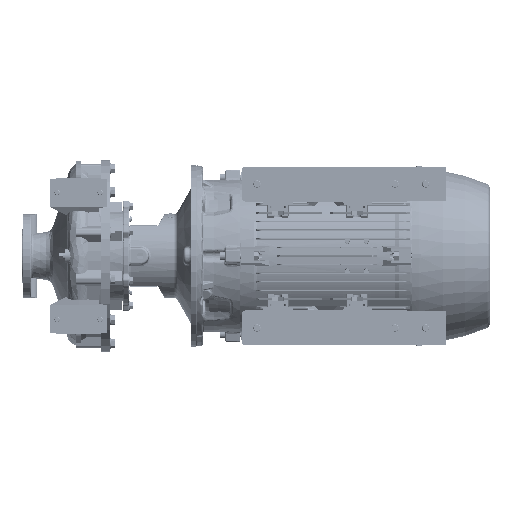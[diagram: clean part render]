
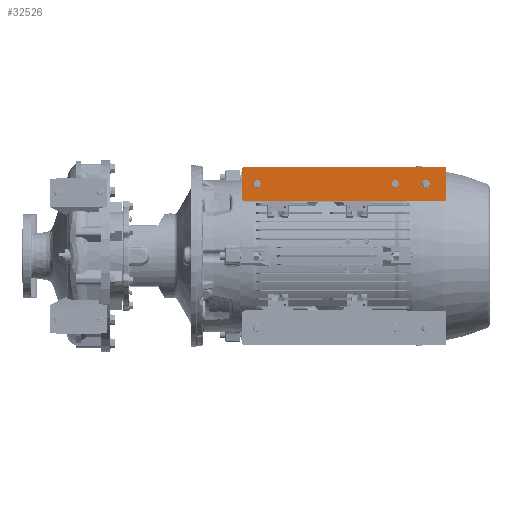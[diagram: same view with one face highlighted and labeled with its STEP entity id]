
A CAD part, front view. The second image highlights one B-rep face of the part: STEP entity #32526.
In plain terms, the highlighted planar face has unit normal (0, -1, 0).
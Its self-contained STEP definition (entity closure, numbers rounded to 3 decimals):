
#7 = VERTEX_POINT ( 'NONE', #202295 ) ;
#3494 = DIRECTION ( 'NONE',  ( 0., 0., -1. ) ) ;
#4790 = VERTEX_POINT ( 'NONE', #123176 ) ;
#8928 = CARTESIAN_POINT ( 'NONE',  ( 37.5, 0., -345.5 ) ) ;
#9442 = CIRCLE ( 'NONE', #90820, 9. ) ;
#11420 = CARTESIAN_POINT ( 'NONE',  ( 0., 0., -3. ) ) ;
#12205 = CIRCLE ( 'NONE', #294883, 8. ) ;
#12780 = EDGE_CURVE ( 'NONE', #149916, #209940, #103593, .T. ) ;
#13711 = AXIS2_PLACEMENT_3D ( 'NONE', #248747, #113656, #182715 ) ;
#15314 = DIRECTION ( 'NONE',  ( 0., 0., -1. ) ) ;
#16741 = DIRECTION ( 'NONE',  ( 0., 0., -1. ) ) ;
#19139 = EDGE_CURVE ( 'NONE', #53558, #128656, #172442, .T. ) ;
#20079 = CARTESIAN_POINT ( 'NONE',  ( 37.5, 0., -329.5 ) ) ;
#20106 = CARTESIAN_POINT ( 'NONE',  ( 3., 0., -3. ) ) ;
#23352 = EDGE_CURVE ( 'NONE', #7, #47217, #9442, .T. ) ;
#23744 = EDGE_LOOP ( 'NONE', ( #162663, #124291 ) ) ;
#27417 = AXIS2_PLACEMENT_3D ( 'NONE', #209442, #136015, #93947 ) ;
#27974 = VERTEX_POINT ( 'NONE', #95705 ) ;
#28621 = EDGE_CURVE ( 'NONE', #4790, #128656, #200302, .T. ) ;
#30229 = ORIENTED_EDGE ( 'NONE', *, *, #23352, .T. ) ;
#32526 = ADVANCED_FACE ( 'NONE', ( #82821, #37846, #219330, #60319 ), #217858, .T. ) ;
#34465 = EDGE_LOOP ( 'NONE', ( #206825, #223949 ) ) ;
#34843 = DIRECTION ( 'NONE',  ( 0., 0., -1. ) ) ;
#37091 = VERTEX_POINT ( 'NONE', #252773 ) ;
#37846 = FACE_BOUND ( 'NONE', #23744, .T. ) ;
#39243 = LINE ( 'NONE', #136591, #205975 ) ;
#42236 = ORIENTED_EDGE ( 'NONE', *, *, #19139, .F. ) ;
#43076 = CARTESIAN_POINT ( 'NONE',  ( 0., 0., 0. ) ) ;
#47217 = VERTEX_POINT ( 'NONE', #160690 ) ;
#48198 = DIRECTION ( 'NONE',  ( 0., 0., -1. ) ) ;
#53558 = VERTEX_POINT ( 'NONE', #88340 ) ;
#56647 = CARTESIAN_POINT ( 'NONE',  ( 72., 0., -447. ) ) ;
#59594 = DIRECTION ( 'NONE',  ( 0., 0., -1. ) ) ;
#60319 = FACE_OUTER_BOUND ( 'NONE', #229727, .T. ) ;
#65061 = EDGE_CURVE ( 'NONE', #27974, #149916, #108066, .T. ) ;
#67252 = CIRCLE ( 'NONE', #114939, 9. ) ;
#69479 = CIRCLE ( 'NONE', #256198, 3. ) ;
#70303 = AXIS2_PLACEMENT_3D ( 'NONE', #78369, #244820, #15314 ) ;
#70401 = DIRECTION ( 'NONE',  ( 0., 1., 0. ) ) ;
#70958 = AXIS2_PLACEMENT_3D ( 'NONE', #20106, #269173, #293133 ) ;
#72839 = EDGE_CURVE ( 'NONE', #47217, #7, #67252, .T. ) ;
#75991 = CARTESIAN_POINT ( 'NONE',  ( 37.5, 0., -24.5 ) ) ;
#78369 = CARTESIAN_POINT ( 'NONE',  ( 0., 0., -450. ) ) ;
#78968 = CARTESIAN_POINT ( 'NONE',  ( 37.5, 0., -405. ) ) ;
#80452 = DIRECTION ( 'NONE',  ( 0., 1., 0. ) ) ;
#81104 = DIRECTION ( 'NONE',  ( 0., 0., 1. ) ) ;
#82101 = DIRECTION ( 'NONE',  ( 0., -1., 0. ) ) ;
#82821 = FACE_BOUND ( 'NONE', #34465, .T. ) ;
#86970 = EDGE_CURVE ( 'NONE', #4790, #37091, #207945, .T. ) ;
#88340 = CARTESIAN_POINT ( 'NONE',  ( 0., 0., -447. ) ) ;
#89823 = EDGE_CURVE ( 'NONE', #256763, #182522, #99991, .T. ) ;
#90820 = AXIS2_PLACEMENT_3D ( 'NONE', #208998, #207532, #3494 ) ;
#92991 = VERTEX_POINT ( 'NONE', #270288 ) ;
#93947 = DIRECTION ( 'NONE',  ( 0., 0., -1. ) ) ;
#95705 = CARTESIAN_POINT ( 'NONE',  ( 72., 0., -450. ) ) ;
#99991 = CIRCLE ( 'NONE', #13711, 8. ) ;
#101917 = VECTOR ( 'NONE', #113749, 1000. ) ;
#103134 = ORIENTED_EDGE ( 'NONE', *, *, #86970, .F. ) ;
#103593 = LINE ( 'NONE', #108021, #119012 ) ;
#107607 = ORIENTED_EDGE ( 'NONE', *, *, #65061, .T. ) ;
#108021 = CARTESIAN_POINT ( 'NONE',  ( 75., 0., -450. ) ) ;
#108066 = CIRCLE ( 'NONE', #117679, 3. ) ;
#111162 = CARTESIAN_POINT ( 'NONE',  ( 37.5, 0., -337.5 ) ) ;
#113656 = DIRECTION ( 'NONE',  ( 0., 1., 0. ) ) ;
#113749 = DIRECTION ( 'NONE',  ( 0., 0., 1. ) ) ;
#114939 = AXIS2_PLACEMENT_3D ( 'NONE', #78968, #80452, #218455 ) ;
#117089 = DIRECTION ( 'NONE',  ( 0., 1., 0. ) ) ;
#117679 = AXIS2_PLACEMENT_3D ( 'NONE', #56647, #82101, #59594 ) ;
#119012 = VECTOR ( 'NONE', #81104, 1000. ) ;
#119789 = CARTESIAN_POINT ( 'NONE',  ( 37.5, 0., -32.5 ) ) ;
#121299 = ORIENTED_EDGE ( 'NONE', *, *, #28621, .T. ) ;
#123176 = CARTESIAN_POINT ( 'NONE',  ( 3., 0., 0. ) ) ;
#124291 = ORIENTED_EDGE ( 'NONE', *, *, #89823, .T. ) ;
#127998 = CIRCLE ( 'NONE', #27417, 3. ) ;
#128656 = VERTEX_POINT ( 'NONE', #11420 ) ;
#136015 = DIRECTION ( 'NONE',  ( 0., -1., 0. ) ) ;
#136591 = CARTESIAN_POINT ( 'NONE',  ( 0., 0., -450. ) ) ;
#138356 = VERTEX_POINT ( 'NONE', #75991 ) ;
#141442 = CIRCLE ( 'NONE', #232399, 8. ) ;
#149916 = VERTEX_POINT ( 'NONE', #238283 ) ;
#160690 = CARTESIAN_POINT ( 'NONE',  ( 37.5, 0., -414. ) ) ;
#161926 = DIRECTION ( 'NONE',  ( 0., 0., -1. ) ) ;
#162487 = CARTESIAN_POINT ( 'NONE',  ( 72., 0., -3. ) ) ;
#162663 = ORIENTED_EDGE ( 'NONE', *, *, #247073, .T. ) ;
#172442 = LINE ( 'NONE', #263919, #101917 ) ;
#182522 = VERTEX_POINT ( 'NONE', #20079 ) ;
#182715 = DIRECTION ( 'NONE',  ( 0., 0., -1. ) ) ;
#185036 = AXIS2_PLACEMENT_3D ( 'NONE', #213083, #117089, #48198 ) ;
#186478 = DIRECTION ( 'NONE',  ( 0., -1., 0. ) ) ;
#187783 = ORIENTED_EDGE ( 'NONE', *, *, #201660, .T. ) ;
#199477 = ORIENTED_EDGE ( 'NONE', *, *, #256520, .T. ) ;
#199753 = DIRECTION ( 'NONE',  ( 0., 1., 0. ) ) ;
#200302 = CIRCLE ( 'NONE', #70958, 3. ) ;
#201442 = CARTESIAN_POINT ( 'NONE',  ( 75., 0., -3. ) ) ;
#201660 = EDGE_CURVE ( 'NONE', #209940, #37091, #69479, .T. ) ;
#202295 = CARTESIAN_POINT ( 'NONE',  ( 37.5, 0., -396. ) ) ;
#204412 = ORIENTED_EDGE ( 'NONE', *, *, #12780, .T. ) ;
#205975 = VECTOR ( 'NONE', #222191, 1000. ) ;
#206825 = ORIENTED_EDGE ( 'NONE', *, *, #217658, .T. ) ;
#207532 = DIRECTION ( 'NONE',  ( 0., 1., 0. ) ) ;
#207945 = LINE ( 'NONE', #43076, #257721 ) ;
#208998 = CARTESIAN_POINT ( 'NONE',  ( 37.5, 0., -405. ) ) ;
#209442 = CARTESIAN_POINT ( 'NONE',  ( 3., 0., -447. ) ) ;
#209940 = VERTEX_POINT ( 'NONE', #201442 ) ;
#213083 = CARTESIAN_POINT ( 'NONE',  ( 37.5, 0., -32.5 ) ) ;
#217658 = EDGE_CURVE ( 'NONE', #138356, #243059, #141442, .T. ) ;
#217858 = PLANE ( 'NONE',  #70303 ) ;
#218455 = DIRECTION ( 'NONE',  ( 0., 0., -1. ) ) ;
#219330 = FACE_BOUND ( 'NONE', #272195, .T. ) ;
#222191 = DIRECTION ( 'NONE',  ( 1., 0., 0. ) ) ;
#223949 = ORIENTED_EDGE ( 'NONE', *, *, #247860, .T. ) ;
#226015 = DIRECTION ( 'NONE',  ( 1., 0., 0. ) ) ;
#229727 = EDGE_LOOP ( 'NONE', ( #103134, #121299, #42236, #294290, #199477, #107607, #204412, #187783 ) ) ;
#232399 = AXIS2_PLACEMENT_3D ( 'NONE', #119789, #70401, #161926 ) ;
#238283 = CARTESIAN_POINT ( 'NONE',  ( 75., 0., -447. ) ) ;
#243059 = VERTEX_POINT ( 'NONE', #254721 ) ;
#244820 = DIRECTION ( 'NONE',  ( 0., -1., 0. ) ) ;
#247073 = EDGE_CURVE ( 'NONE', #182522, #256763, #12205, .T. ) ;
#247860 = EDGE_CURVE ( 'NONE', #243059, #138356, #261673, .T. ) ;
#248747 = CARTESIAN_POINT ( 'NONE',  ( 37.5, 0., -337.5 ) ) ;
#252210 = EDGE_CURVE ( 'NONE', #53558, #92991, #127998, .T. ) ;
#252773 = CARTESIAN_POINT ( 'NONE',  ( 72., 0., 0. ) ) ;
#254721 = CARTESIAN_POINT ( 'NONE',  ( 37.5, 0., -40.5 ) ) ;
#256198 = AXIS2_PLACEMENT_3D ( 'NONE', #162487, #186478, #34843 ) ;
#256520 = EDGE_CURVE ( 'NONE', #92991, #27974, #39243, .T. ) ;
#256655 = ORIENTED_EDGE ( 'NONE', *, *, #72839, .T. ) ;
#256763 = VERTEX_POINT ( 'NONE', #8928 ) ;
#257721 = VECTOR ( 'NONE', #226015, 1000. ) ;
#261673 = CIRCLE ( 'NONE', #185036, 8. ) ;
#263919 = CARTESIAN_POINT ( 'NONE',  ( 0., 0., -450. ) ) ;
#269173 = DIRECTION ( 'NONE',  ( 0., -1., 0. ) ) ;
#270288 = CARTESIAN_POINT ( 'NONE',  ( 3., 0., -450. ) ) ;
#272195 = EDGE_LOOP ( 'NONE', ( #30229, #256655 ) ) ;
#293133 = DIRECTION ( 'NONE',  ( 0., 0., -1. ) ) ;
#294290 = ORIENTED_EDGE ( 'NONE', *, *, #252210, .T. ) ;
#294883 = AXIS2_PLACEMENT_3D ( 'NONE', #111162, #199753, #16741 ) ;
